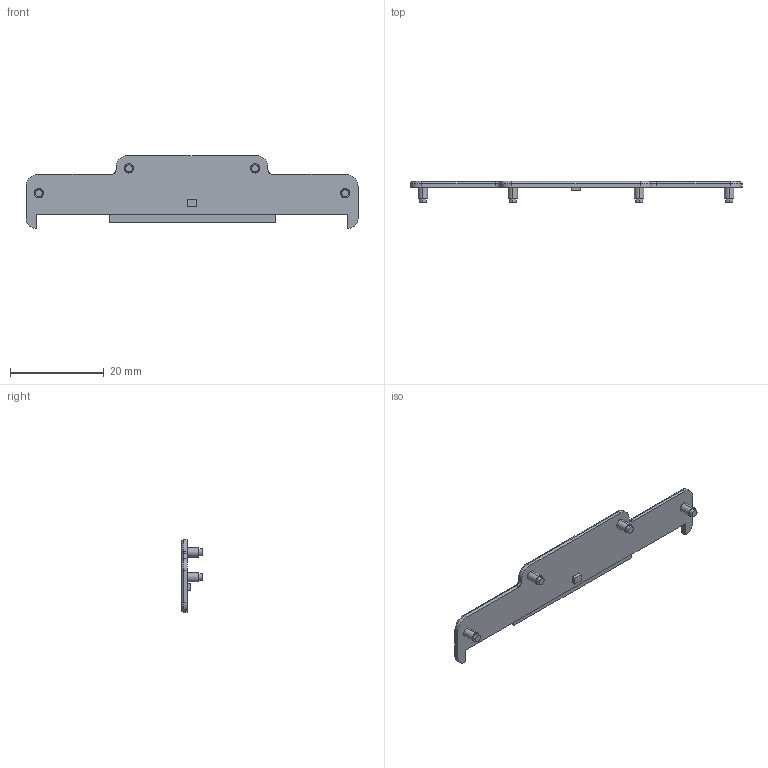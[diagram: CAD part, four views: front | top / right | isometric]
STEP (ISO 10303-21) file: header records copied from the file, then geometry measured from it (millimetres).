
FILE_DESCRIPTION (( 'STEP AP203' ), '1' );
FILE_NAME ('SP7-C.STEP', '2019-09-12T16:50:48', ( '' ), ( '' ), 'SwSTEP 2.0', 'SolidWorks 2012', '' );
FILE_SCHEMA (( 'CONFIG_CONTROL_DESIGN' ));
Length unit declared in the file: millimetre
Products named in the file (1): SP7-C
Bounding box: 71 x 4.5 x 15.5 mm (x, y, z)
Volume: 942.4 mm3; surface area: 1866.1 mm2
Topology: 1 solids, 1 shells, 73 faces, 170 edges, 108 vertices
Faces by surface type: cylinder 34, plane 31, torus 8
Entity records: 2171 total; most frequent: DIRECTION 396, CARTESIAN_POINT 352, ORIENTED_EDGE 340, EDGE_CURVE 170, AXIS2_PLACEMENT_3D 152, VERTEX_POINT 108, VECTOR 92, LINE 92
